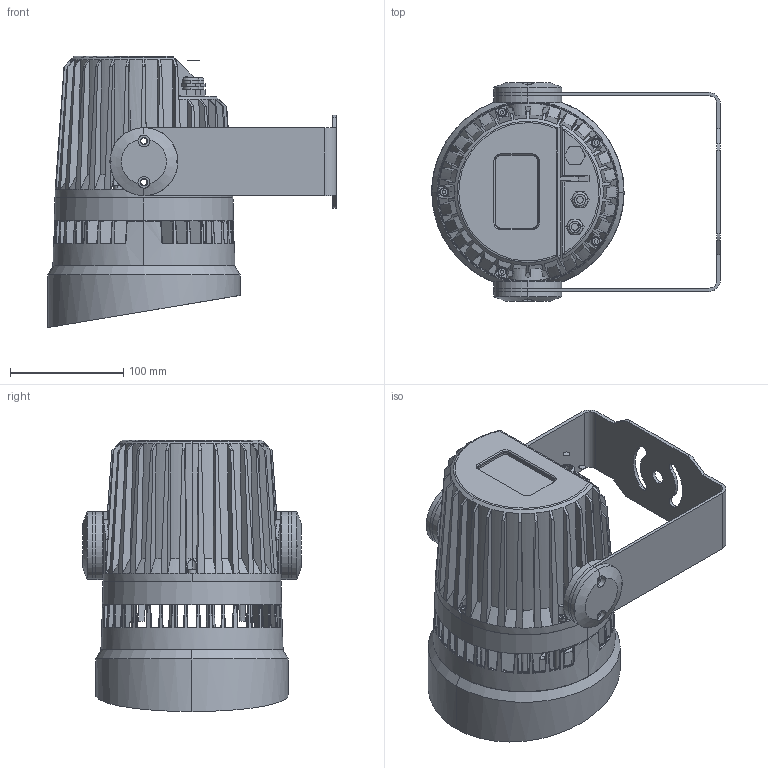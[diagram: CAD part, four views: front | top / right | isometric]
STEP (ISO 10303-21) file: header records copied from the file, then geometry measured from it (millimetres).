
FILE_DESCRIPTION (( 'STEP AP203' ), '1' );
FILE_NAME ('EW-100-faces.STEP', '2016-01-18T06:53:42', ( 'Martin Gruppen A/S' ), ( 'Martin Gruppen A/S' ), 'SwSTEP 2.0', 'SolidWorks 2014', '' );
FILE_SCHEMA (( 'CONFIG_CONTROL_DESIGN' ));
Length unit declared in the file: millimetre
Products named in the file (1): EW-100-faces
Bounding box: 255 x 193 x 239.7 mm (x, y, z)
Surface area: 347675.8 mm2 (no closed solid volume)
Topology: 0 solids, 72 shells, 1096 faces, 4901 edges, 3831 vertices
Faces by surface type: plane 349, cylinder 338, bspline 250, cone 159
Full cylindrical faces by diameter (mm): 6 x2
Entity records: 80825 total; most frequent: CARTESIAN_POINT 49098, ORIENTED_EDGE 7002, EDGE_CURVE 4885, DIRECTION 4235, VERTEX_POINT 3831, B_SPLINE_CURVE_WITH_KNOTS 2869, AXIS2_PLACEMENT_3D 1615, EDGE_LOOP 1200
